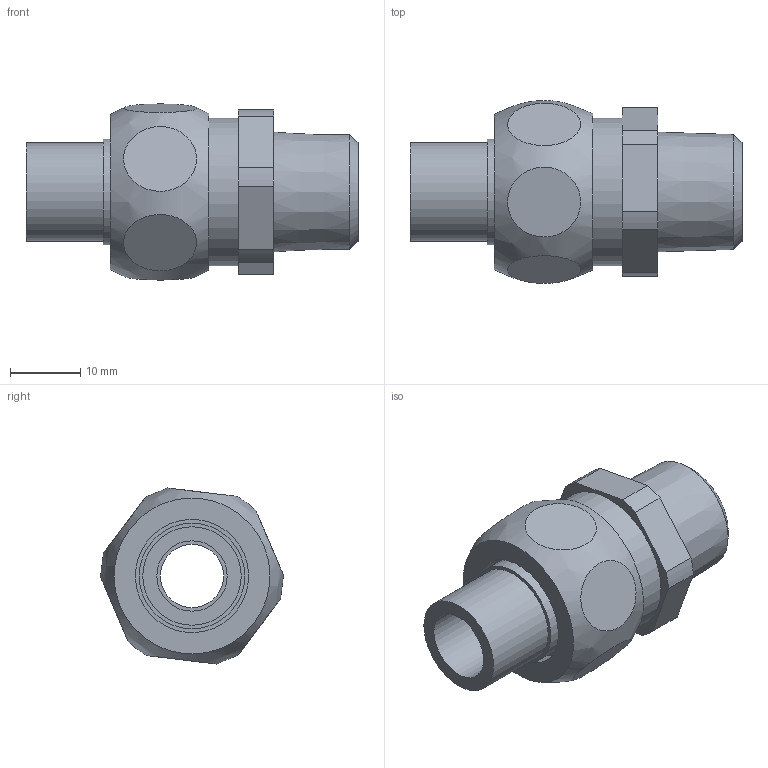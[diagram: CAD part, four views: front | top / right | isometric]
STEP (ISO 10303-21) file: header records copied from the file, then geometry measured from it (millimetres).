
FILE_DESCRIPTION(/* description */ (''),/* implementation_level */ '2;1');
FILE_NAME(/* name */ '\\lg50011\SANHA_LEGNICA\Engineering\Public\RYSUNKI\SANHA POLSKA\4343\Inventor\stp\143431038.stp',/* time_stamp */ '2021-10-06T07:26:45+02:00',/* author */ ('gomulka'),/* organization */ (''),/* preprocessor_version */ 'ST-DEVELOPER v18.1',/* originating_system */ 'Autodesk Inventor 2021',/* authorisation */ '');
FILE_SCHEMA (('AUTOMOTIVE_DESIGN { 1 0 10303 214 3 1 1 }'));
Length unit declared in the file: millimetre
Products named in the file (4): 143431038; 14381_10-12(1); 14374B_12(0); 14386g_38-12(2)
Assembly tree (3 placements, depth 2):
  143431038
    14381_10-12(1)
    14374B_12(0)
    14386g_38-12(2)
Bounding box: 47.2 x 26 x 25.03 mm (x, y, z)
Volume: 10668.8 mm3; surface area: 7436 mm2
Topology: 3 solids, 3 shells, 47 faces, 118 edges, 88 vertices
Faces by surface type: plane 24, cylinder 16, cone 5, bspline 2
Full cylindrical faces by diameter (mm): 9 x1, 10 x1, 11 x1, 14 x1, 15 x2, 16.1 x1, 18.3 x1, 18.63 x1, 20.955 x1
Entity records: 1982 total; most frequent: CARTESIAN_POINT 611, DIRECTION 283, ORIENTED_EDGE 236, AXIS2_PLACEMENT_3D 122, EDGE_CURVE 118, VERTEX_POINT 88, CIRCLE 70, EDGE_LOOP 64
